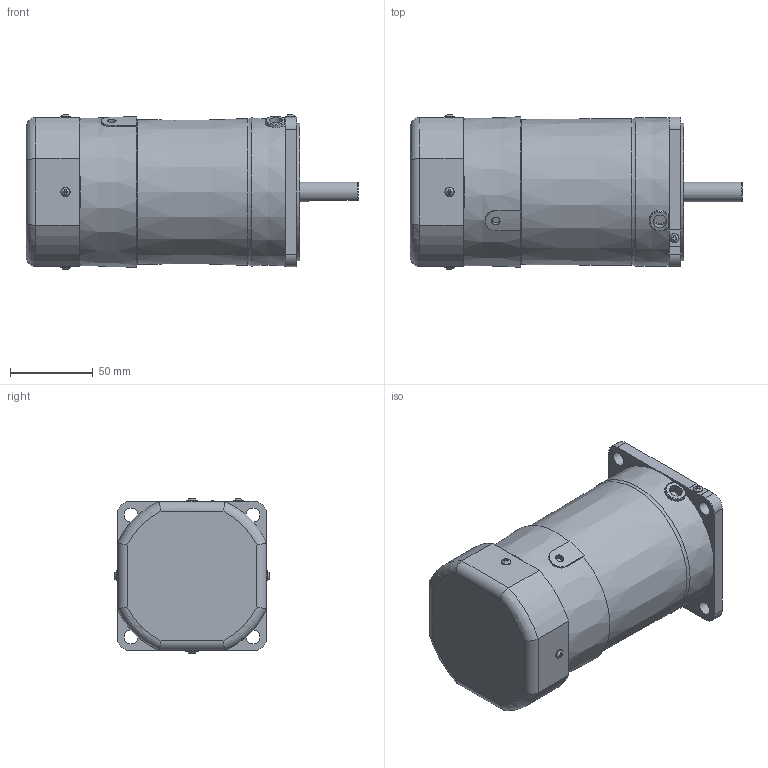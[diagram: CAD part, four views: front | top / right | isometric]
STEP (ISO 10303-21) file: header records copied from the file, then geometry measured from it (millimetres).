
FILE_DESCRIPTION(/* description */ (''),/* implementation_level */ '2;1');
FILE_NAME(/* name */ 'E:\도면작업\2016\0704) 미주향 SG 도면\3D MOTOR\ELECTROMAGNETIC BRAKE\SG9R(I)60D_-E.stp',/* time_stamp */ '2017-03-21T14:54:34+09:00',/* author */ ('jy-jung'),/* organization */ (''),/* preprocessor_version */ 'ST-DEVELOPER v15.6',/* originating_system */ 'Autodesk Inventor 2015',/* authorisation */ '');
FILE_SCHEMA (('AUTOMOTIVE_DESIGN { 1 0 10303 214 3 1 1 }'));
Length unit declared in the file: millimetre
Products named in the file (1): 부품23
Bounding box: 200.3 x 93.89 x 93.89 mm (x, y, z)
Volume: 1049907.8 mm3; surface area: 70528.7 mm2
Topology: 1 solids, 6 shells, 231 faces, 593 edges, 391 vertices
Faces by surface type: plane 148, cylinder 55, torus 14, cone 8, bspline 5, sphere 1
Full cylindrical faces by diameter (mm): 3 x4, 3.5 x4, 5 x1, 5.6 x5, 8 x1, 8.5 x4, 10 x1, 12 x1, 40 x1, 83 x1, 86 x1
Entity records: 7540 total; most frequent: CARTESIAN_POINT 1924, ORIENTED_EDGE 1080, DIRECTION 1044, EDGE_CURVE 540, VERTEX_POINT 379, AXIS2_PLACEMENT_3D 370, EDGE_LOOP 307, LINE 304
